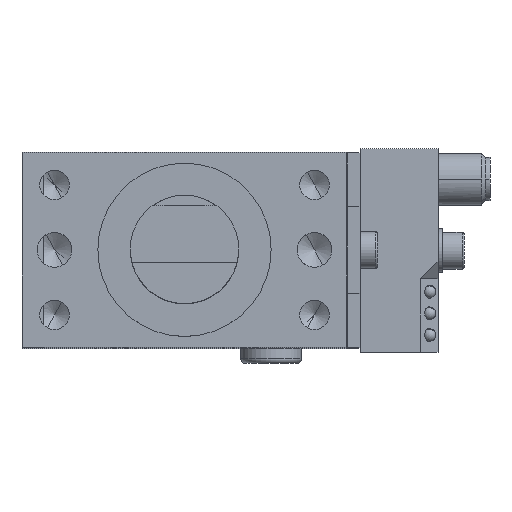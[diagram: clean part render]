
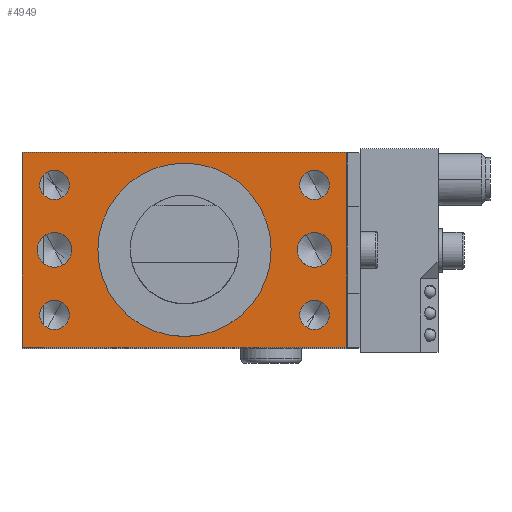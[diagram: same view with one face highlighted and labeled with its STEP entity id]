
A CAD part, top view. The second image highlights one B-rep face of the part: STEP entity #4949.
In plain terms, the highlighted planar face has unit normal (0, 0, 1).
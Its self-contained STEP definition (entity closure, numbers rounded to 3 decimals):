
#3346=AXIS2_PLACEMENT_3D('Circle Axis2P3D',#3344,#3345,$) ;
#3373=AXIS2_PLACEMENT_3D('Circle Axis2P3D',#3371,#3372,$) ;
#3405=AXIS2_PLACEMENT_3D('Circle Axis2P3D',#3403,#3404,$) ;
#3432=AXIS2_PLACEMENT_3D('Circle Axis2P3D',#3430,#3431,$) ;
#3464=AXIS2_PLACEMENT_3D('Circle Axis2P3D',#3462,#3463,$) ;
#3491=AXIS2_PLACEMENT_3D('Circle Axis2P3D',#3489,#3490,$) ;
#3523=AXIS2_PLACEMENT_3D('Circle Axis2P3D',#3521,#3522,$) ;
#3542=AXIS2_PLACEMENT_3D('Circle Axis2P3D',#3540,#3541,$) ;
#3936=AXIS2_PLACEMENT_3D('Circle Axis2P3D',#3934,#3935,$) ;
#4024=AXIS2_PLACEMENT_3D('Circle Axis2P3D',#4022,#4023,$) ;
#4074=AXIS2_PLACEMENT_3D('Circle Axis2P3D',#4072,#4073,$) ;
#4159=AXIS2_PLACEMENT_3D('Circle Axis2P3D',#4157,#4158,$) ;
#4209=AXIS2_PLACEMENT_3D('Circle Axis2P3D',#4207,#4208,$) ;
#4294=AXIS2_PLACEMENT_3D('Circle Axis2P3D',#4292,#4293,$) ;
#4901=AXIS2_PLACEMENT_3D('Plane Axis2P3D',#4898,#4899,#4900) ;
#50=CARTESIAN_POINT('Vertex',(37.5,22.5,0.)) ;
#53=CARTESIAN_POINT('Line Origine',(37.5,0.,0.)) ;
#57=CARTESIAN_POINT('Vertex',(37.5,-22.5,0.)) ;
#3341=CARTESIAN_POINT('Vertex',(26.,0.,0.)) ;
#3344=CARTESIAN_POINT('Axis2P3D Location',(30.,0.,0.)) ;
#3348=CARTESIAN_POINT('Vertex',(34.,0.,0.)) ;
#3371=CARTESIAN_POINT('Axis2P3D Location',(30.,0.,0.)) ;
#3400=CARTESIAN_POINT('Vertex',(33.4,-15.,0.)) ;
#3403=CARTESIAN_POINT('Axis2P3D Location',(30.,-15.,0.)) ;
#3407=CARTESIAN_POINT('Vertex',(26.6,-15.,0.)) ;
#3430=CARTESIAN_POINT('Axis2P3D Location',(30.,-15.,0.)) ;
#3459=CARTESIAN_POINT('Vertex',(26.6,15.,0.)) ;
#3462=CARTESIAN_POINT('Axis2P3D Location',(30.,15.,0.)) ;
#3466=CARTESIAN_POINT('Vertex',(33.4,15.,0.)) ;
#3489=CARTESIAN_POINT('Axis2P3D Location',(30.,15.,0.)) ;
#3518=CARTESIAN_POINT('Vertex',(-20.,0.,0.)) ;
#3521=CARTESIAN_POINT('Axis2P3D Location',(0.,0.,0.)) ;
#3525=CARTESIAN_POINT('Vertex',(20.,0.,0.)) ;
#3540=CARTESIAN_POINT('Axis2P3D Location',(0.,0.,0.)) ;
#3931=CARTESIAN_POINT('Vertex',(-34.,0.,0.)) ;
#3934=CARTESIAN_POINT('Axis2P3D Location',(-30.,0.,0.)) ;
#3938=CARTESIAN_POINT('Vertex',(-26.,0.,0.)) ;
#4022=CARTESIAN_POINT('Axis2P3D Location',(-30.,0.,0.)) ;
#4069=CARTESIAN_POINT('Vertex',(-33.4,15.,0.)) ;
#4072=CARTESIAN_POINT('Axis2P3D Location',(-30.,15.,0.)) ;
#4076=CARTESIAN_POINT('Vertex',(-26.6,15.,0.)) ;
#4157=CARTESIAN_POINT('Axis2P3D Location',(-30.,15.,0.)) ;
#4204=CARTESIAN_POINT('Vertex',(-33.4,-15.,0.)) ;
#4207=CARTESIAN_POINT('Axis2P3D Location',(-30.,-15.,0.)) ;
#4211=CARTESIAN_POINT('Vertex',(-26.6,-15.,0.)) ;
#4292=CARTESIAN_POINT('Axis2P3D Location',(-30.,-15.,0.)) ;
#4440=CARTESIAN_POINT('Vertex',(-37.5,22.5,0.)) ;
#4443=CARTESIAN_POINT('Line Origine',(0.,22.5,0.)) ;
#4898=CARTESIAN_POINT('Axis2P3D Location',(0.,0.,0.)) ;
#4903=CARTESIAN_POINT('Line Origine',(-37.5,0.,0.)) ;
#4907=CARTESIAN_POINT('Vertex',(-37.5,-22.5,0.)) ;
#4910=CARTESIAN_POINT('Line Origine',(0.,-22.5,0.)) ;
#54=DIRECTION('Vector Direction',(0.,-1.,0.)) ;
#3345=DIRECTION('Axis2P3D Direction',(0.,0.,1.)) ;
#3372=DIRECTION('Axis2P3D Direction',(0.,0.,1.)) ;
#3404=DIRECTION('Axis2P3D Direction',(0.,0.,-1.)) ;
#3431=DIRECTION('Axis2P3D Direction',(0.,0.,-1.)) ;
#3463=DIRECTION('Axis2P3D Direction',(0.,0.,1.)) ;
#3490=DIRECTION('Axis2P3D Direction',(0.,0.,1.)) ;
#3522=DIRECTION('Axis2P3D Direction',(0.,0.,-1.)) ;
#3541=DIRECTION('Axis2P3D Direction',(0.,0.,-1.)) ;
#3935=DIRECTION('Axis2P3D Direction',(0.,0.,1.)) ;
#4023=DIRECTION('Axis2P3D Direction',(0.,0.,1.)) ;
#4073=DIRECTION('Axis2P3D Direction',(0.,0.,1.)) ;
#4158=DIRECTION('Axis2P3D Direction',(0.,0.,1.)) ;
#4208=DIRECTION('Axis2P3D Direction',(0.,0.,-1.)) ;
#4293=DIRECTION('Axis2P3D Direction',(0.,0.,-1.)) ;
#4444=DIRECTION('Vector Direction',(1.,0.,0.)) ;
#4899=DIRECTION('Axis2P3D Direction',(0.,0.,1.)) ;
#4900=DIRECTION('Axis2P3D XDirection',(0.,1.,0.)) ;
#4904=DIRECTION('Vector Direction',(0.,1.,0.)) ;
#4911=DIRECTION('Vector Direction',(-1.,0.,0.)) ;
#55=VECTOR('Line Direction',#54,1.) ;
#4445=VECTOR('Line Direction',#4444,1.) ;
#4905=VECTOR('Line Direction',#4904,1.) ;
#4912=VECTOR('Line Direction',#4911,1.) ;
#4916=ORIENTED_EDGE('',*,*,#59,.T.) ;
#4917=ORIENTED_EDGE('',*,*,#4447,.T.) ;
#4918=ORIENTED_EDGE('',*,*,#4909,.T.) ;
#4919=ORIENTED_EDGE('',*,*,#4914,.T.) ;
#4922=ORIENTED_EDGE('',*,*,#3544,.T.) ;
#4923=ORIENTED_EDGE('',*,*,#3527,.T.) ;
#4926=ORIENTED_EDGE('',*,*,#4161,.F.) ;
#4927=ORIENTED_EDGE('',*,*,#4078,.F.) ;
#4930=ORIENTED_EDGE('',*,*,#3493,.F.) ;
#4931=ORIENTED_EDGE('',*,*,#3468,.F.) ;
#4934=ORIENTED_EDGE('',*,*,#4213,.T.) ;
#4935=ORIENTED_EDGE('',*,*,#4296,.T.) ;
#4938=ORIENTED_EDGE('',*,*,#3434,.T.) ;
#4939=ORIENTED_EDGE('',*,*,#3409,.T.) ;
#4942=ORIENTED_EDGE('',*,*,#4026,.F.) ;
#4943=ORIENTED_EDGE('',*,*,#3940,.F.) ;
#4946=ORIENTED_EDGE('',*,*,#3375,.F.) ;
#4947=ORIENTED_EDGE('',*,*,#3350,.F.) ;
#4924=FACE_BOUND('',#4921,.T.) ;
#4928=FACE_BOUND('',#4925,.T.) ;
#4932=FACE_BOUND('',#4929,.T.) ;
#4936=FACE_BOUND('',#4933,.T.) ;
#4940=FACE_BOUND('',#4937,.T.) ;
#4944=FACE_BOUND('',#4941,.T.) ;
#4948=FACE_BOUND('',#4945,.T.) ;
#4949=ADVANCED_FACE('SZK_40_A42_T12_TUENKERS',(#4920,#4924,#4928,#4932,#4936,#4940,#4944,#4948),#4902,.T.) ;
#3347=CIRCLE('generated circle',#3346,4.) ;
#3374=CIRCLE('generated circle',#3373,4.) ;
#3406=CIRCLE('generated circle',#3405,3.4) ;
#3433=CIRCLE('generated circle',#3432,3.4) ;
#3465=CIRCLE('generated circle',#3464,3.4) ;
#3492=CIRCLE('generated circle',#3491,3.4) ;
#3524=CIRCLE('generated circle',#3523,20.) ;
#3543=CIRCLE('generated circle',#3542,20.) ;
#3937=CIRCLE('generated circle',#3936,4.) ;
#4025=CIRCLE('generated circle',#4024,4.) ;
#4075=CIRCLE('generated circle',#4074,3.4) ;
#4160=CIRCLE('generated circle',#4159,3.4) ;
#4210=CIRCLE('generated circle',#4209,3.4) ;
#4295=CIRCLE('generated circle',#4294,3.4) ;
#59=EDGE_CURVE('',#58,#51,#56,.F.) ;
#3350=EDGE_CURVE('',#3342,#3349,#3347,.T.) ;
#3375=EDGE_CURVE('',#3349,#3342,#3374,.T.) ;
#3409=EDGE_CURVE('',#3408,#3401,#3406,.T.) ;
#3434=EDGE_CURVE('',#3401,#3408,#3433,.T.) ;
#3468=EDGE_CURVE('',#3460,#3467,#3465,.T.) ;
#3493=EDGE_CURVE('',#3467,#3460,#3492,.T.) ;
#3527=EDGE_CURVE('',#3526,#3519,#3524,.T.) ;
#3544=EDGE_CURVE('',#3519,#3526,#3543,.T.) ;
#3940=EDGE_CURVE('',#3932,#3939,#3937,.T.) ;
#4026=EDGE_CURVE('',#3939,#3932,#4025,.T.) ;
#4078=EDGE_CURVE('',#4070,#4077,#4075,.T.) ;
#4161=EDGE_CURVE('',#4077,#4070,#4160,.T.) ;
#4213=EDGE_CURVE('',#4212,#4205,#4210,.T.) ;
#4296=EDGE_CURVE('',#4205,#4212,#4295,.T.) ;
#4447=EDGE_CURVE('',#51,#4441,#4446,.F.) ;
#4909=EDGE_CURVE('',#4441,#4908,#4906,.F.) ;
#4914=EDGE_CURVE('',#4908,#58,#4913,.F.) ;
#4915=EDGE_LOOP('',(#4916,#4917,#4918,#4919)) ;
#4921=EDGE_LOOP('',(#4922,#4923)) ;
#4925=EDGE_LOOP('',(#4926,#4927)) ;
#4929=EDGE_LOOP('',(#4930,#4931)) ;
#4933=EDGE_LOOP('',(#4934,#4935)) ;
#4937=EDGE_LOOP('',(#4938,#4939)) ;
#4941=EDGE_LOOP('',(#4942,#4943)) ;
#4945=EDGE_LOOP('',(#4946,#4947)) ;
#4920=FACE_OUTER_BOUND('',#4915,.T.) ;
#56=LINE('Line',#53,#55) ;
#4446=LINE('Line',#4443,#4445) ;
#4906=LINE('Line',#4903,#4905) ;
#4913=LINE('Line',#4910,#4912) ;
#4902=PLANE('Plane',#4901) ;
#51=VERTEX_POINT('',#50) ;
#58=VERTEX_POINT('',#57) ;
#3342=VERTEX_POINT('',#3341) ;
#3349=VERTEX_POINT('',#3348) ;
#3401=VERTEX_POINT('',#3400) ;
#3408=VERTEX_POINT('',#3407) ;
#3460=VERTEX_POINT('',#3459) ;
#3467=VERTEX_POINT('',#3466) ;
#3519=VERTEX_POINT('',#3518) ;
#3526=VERTEX_POINT('',#3525) ;
#3932=VERTEX_POINT('',#3931) ;
#3939=VERTEX_POINT('',#3938) ;
#4070=VERTEX_POINT('',#4069) ;
#4077=VERTEX_POINT('',#4076) ;
#4205=VERTEX_POINT('',#4204) ;
#4212=VERTEX_POINT('',#4211) ;
#4441=VERTEX_POINT('',#4440) ;
#4908=VERTEX_POINT('',#4907) ;
